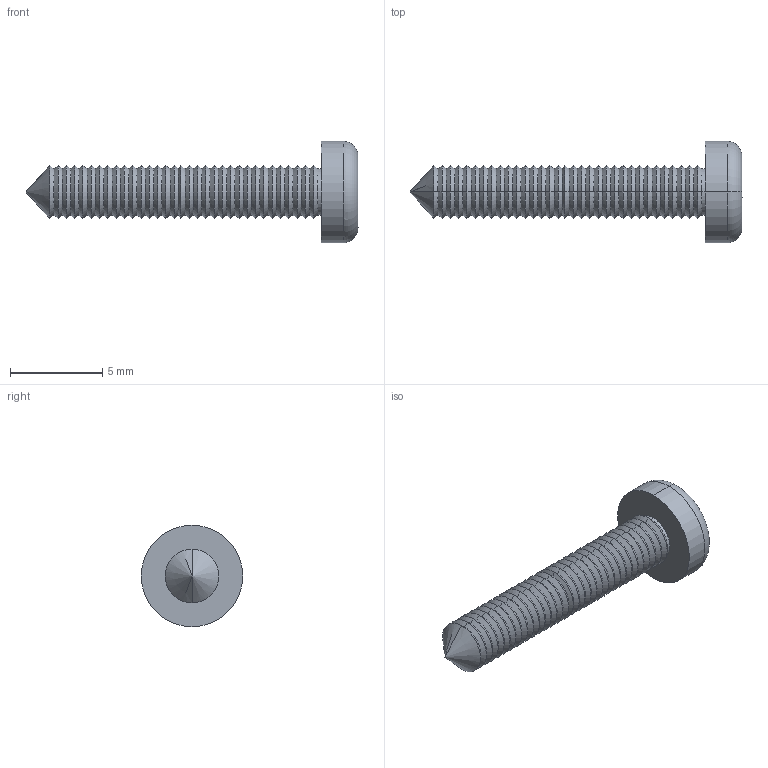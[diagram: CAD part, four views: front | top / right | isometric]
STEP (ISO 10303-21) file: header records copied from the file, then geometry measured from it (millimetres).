
FILE_DESCRIPTION (( 'STEP AP214' ), '1' );
FILE_NAME ('Cargol M 3x20 PP59.STEP', '2019-09-09T14:44:05', ( 'aaa' ), ( '' ), 'SwSTEP 2.0', 'SolidWorks 2014', '' );
FILE_SCHEMA (( 'AUTOMOTIVE_DESIGN' ));
Length unit declared in the file: millimetre
Products named in the file (1): Cargol M 3x20 PP59
Bounding box: 18 x 5.5 x 5.5 mm (x, y, z)
Volume: 131 mm3; surface area: 251.4 mm2
Topology: 1 solids, 1 shells, 155 faces, 325 edges, 171 vertices
Faces by surface type: cone 132, plane 17, cylinder 4, torus 2
Entity records: 4041 total; most frequent: DIRECTION 767, CARTESIAN_POINT 683, ORIENTED_EDGE 646, EDGE_CURVE 323, AXIS2_PLACEMENT_3D 299, VERTEX_POINT 171, VECTOR 169, LINE 169
